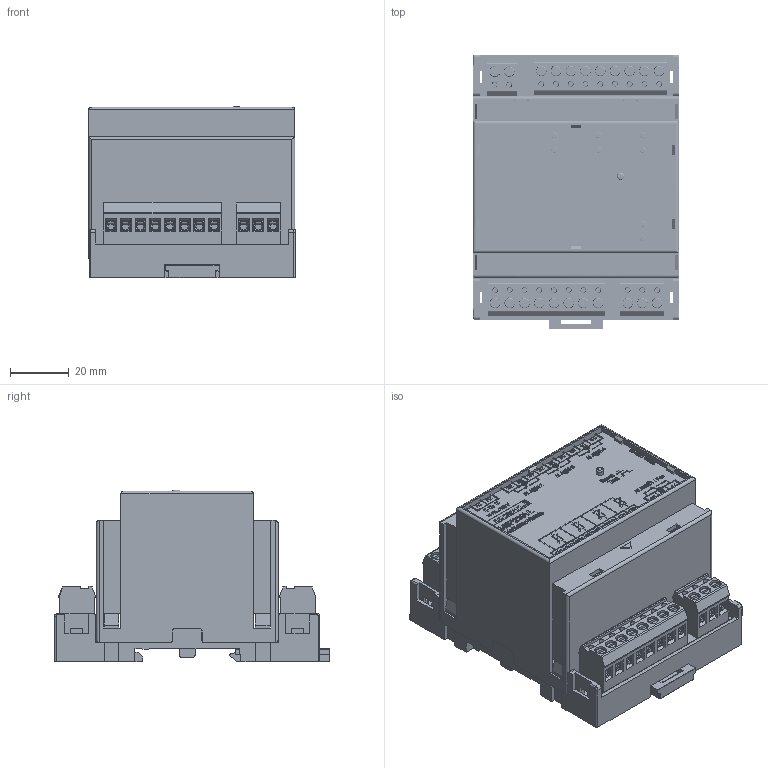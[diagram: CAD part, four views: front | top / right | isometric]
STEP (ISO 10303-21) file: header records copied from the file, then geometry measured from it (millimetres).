
FILE_DESCRIPTION (( 'STEP AP214' ), '1' );
FILE_NAME ('12540-1900-00_3D.STEP', '2013-11-22T08:53:08', ( '' ), ( '' ), 'SwSTEP 2.0', 'SolidWorks 2013', '' );
FILE_SCHEMA (( 'AUTOMOTIVE_DESIGN' ));
Length unit declared in the file: millimetre
Products named in the file (12): V-Riegel_3D; 31137103; 31137108; 31137109; 31137102; Typenschild_T221674; V4_komplett; V4_Frontplatte; V4_Oberteil; V4_Leiterplatte; V4_Unterteil; 12540-1900-00_3D
Assembly tree (11 placements, depth 3):
  12540-1900-00_3D
    V4_komplett
      V4_Unterteil
      V4_Leiterplatte
      V4_Oberteil
      V4_Frontplatte
    Typenschild_T221674
    31137102
    31137109
    31137108
    31137103
    V-Riegel_3D
Bounding box: 70.1 x 93.31 x 58.34 mm (x, y, z)
Volume: 71649 mm3; surface area: 88883.5 mm2
Topology: 320 solids, 320 shells, 5558 faces, 14567 edges, 9609 vertices
Faces by surface type: plane 4200, cylinder 633, bspline 502, cone 176, torus 33, sphere 14
Full cylindrical faces by diameter (mm): 1.5 x26, 1.8 x4, 2 x24, 2.25 x22, 2.4 x22, 2.7 x22, 2.8 x1, 3 x48, 3.5 x4, 3.9 x22, 4.2 x1, 4.5 x2
Entity records: 187189 total; most frequent: CARTESIAN_POINT 48077, ORIENTED_EDGE 27790, DIRECTION 24508, EDGE_CURVE 13895, VECTOR 10568, LINE 10568, VERTEX_POINT 9337, AXIS2_PLACEMENT_3D 6970
